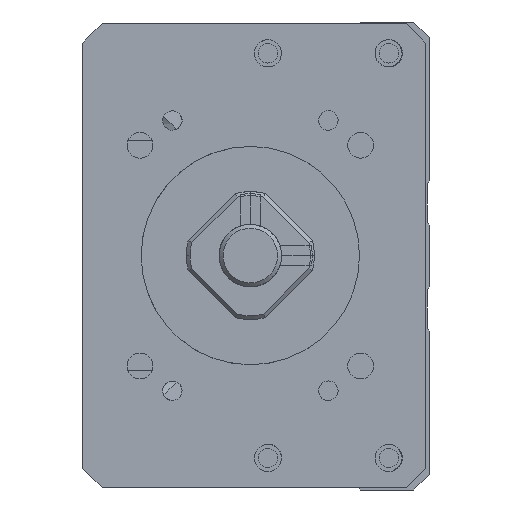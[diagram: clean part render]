
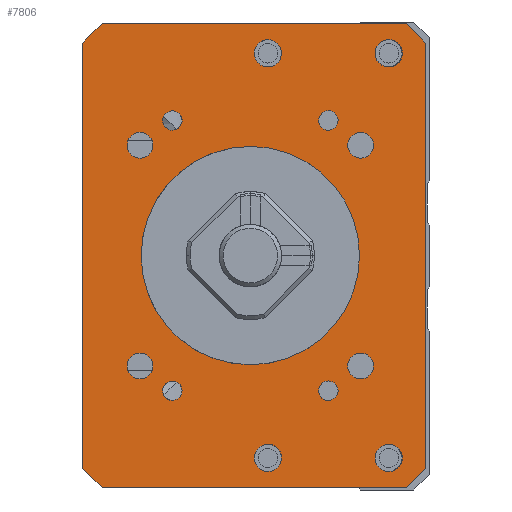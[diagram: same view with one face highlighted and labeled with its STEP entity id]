
A CAD part, left-side view. The second image highlights one B-rep face of the part: STEP entity #7806.
In plain terms, the highlighted planar face has unit normal (-1, 0, 0).
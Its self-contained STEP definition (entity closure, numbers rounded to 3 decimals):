
#4754=CIRCLE('',#15548,14.);
#4763=CIRCLE('',#15559,1.65);
#4764=CIRCLE('',#15560,1.65);
#4765=CIRCLE('',#15561,1.65);
#4766=CIRCLE('',#15562,1.65);
#4767=CIRCLE('',#15563,1.25);
#4768=CIRCLE('',#15564,1.75);
#4769=CIRCLE('',#15565,1.25);
#4770=CIRCLE('',#15566,1.75);
#4771=CIRCLE('',#15567,1.25);
#4772=CIRCLE('',#15568,1.75);
#4773=CIRCLE('',#15569,1.75);
#4774=CIRCLE('',#15570,1.25);
#5287=PLANE('',#15571);
#6151=LINE('',#19894,#6982);
#6153=LINE('',#19918,#6984);
#6154=LINE('',#19920,#6985);
#6155=LINE('',#19922,#6986);
#6156=LINE('',#19924,#6987);
#6157=LINE('',#19926,#6988);
#6158=LINE('',#19928,#6989);
#6159=LINE('',#19930,#6990);
#6982=VECTOR('',#16801,1.);
#6984=VECTOR('',#16825,1.);
#6985=VECTOR('',#16826,1.);
#6986=VECTOR('',#16827,1.);
#6987=VECTOR('',#16828,1.);
#6988=VECTOR('',#16829,1.);
#6989=VECTOR('',#16830,1.);
#6990=VECTOR('',#16831,1.);
#7806=ADVANCED_FACE('',(#8663,#8664,#8665,#8666,#8667,#8668,#8669,#8670,
#8671,#8672,#8673,#8674,#8675,#8676),#5287,.F.);
#8663=FACE_BOUND('',#9174,.T.);
#8664=FACE_BOUND('',#9175,.T.);
#8665=FACE_BOUND('',#9176,.T.);
#8666=FACE_BOUND('',#9177,.T.);
#8667=FACE_BOUND('',#9178,.T.);
#8668=FACE_BOUND('',#9179,.T.);
#8669=FACE_BOUND('',#9180,.T.);
#8670=FACE_BOUND('',#9181,.T.);
#8671=FACE_BOUND('',#9182,.T.);
#8672=FACE_BOUND('',#9183,.T.);
#8673=FACE_BOUND('',#9184,.T.);
#8674=FACE_BOUND('',#9185,.T.);
#8675=FACE_BOUND('',#9186,.T.);
#8676=FACE_BOUND('',#9187,.T.);
#9174=EDGE_LOOP('',(#10241));
#9175=EDGE_LOOP('',(#10242));
#9176=EDGE_LOOP('',(#10243));
#9177=EDGE_LOOP('',(#10244));
#9178=EDGE_LOOP('',(#10245));
#9179=EDGE_LOOP('',(#10246));
#9180=EDGE_LOOP('',(#10247));
#9181=EDGE_LOOP('',(#10248));
#9182=EDGE_LOOP('',(#10249));
#9183=EDGE_LOOP('',(#10250,#10251,#10252,#10253,#10254,#10255,#10256,#10257));
#9184=EDGE_LOOP('',(#10258));
#9185=EDGE_LOOP('',(#10259));
#9186=EDGE_LOOP('',(#10260));
#9187=EDGE_LOOP('',(#10261));
#10241=ORIENTED_EDGE('',*,*,#14058,.F.);
#10242=ORIENTED_EDGE('',*,*,#14059,.F.);
#10243=ORIENTED_EDGE('',*,*,#14060,.F.);
#10244=ORIENTED_EDGE('',*,*,#14061,.F.);
#10245=ORIENTED_EDGE('',*,*,#14062,.F.);
#10246=ORIENTED_EDGE('',*,*,#14063,.T.);
#10247=ORIENTED_EDGE('',*,*,#14064,.F.);
#10248=ORIENTED_EDGE('',*,*,#14065,.F.);
#10249=ORIENTED_EDGE('',*,*,#14066,.F.);
#10250=ORIENTED_EDGE('',*,*,#14055,.T.);
#10251=ORIENTED_EDGE('',*,*,#14067,.T.);
#10252=ORIENTED_EDGE('',*,*,#14068,.F.);
#10253=ORIENTED_EDGE('',*,*,#14069,.T.);
#10254=ORIENTED_EDGE('',*,*,#14070,.F.);
#10255=ORIENTED_EDGE('',*,*,#14071,.T.);
#10256=ORIENTED_EDGE('',*,*,#14072,.T.);
#10257=ORIENTED_EDGE('',*,*,#14073,.T.);
#10258=ORIENTED_EDGE('',*,*,#14074,.F.);
#10259=ORIENTED_EDGE('',*,*,#14075,.F.);
#10260=ORIENTED_EDGE('',*,*,#14076,.F.);
#10261=ORIENTED_EDGE('',*,*,#14035,.F.);
#12985=VERTEX_POINT('',#19817);
#13005=VERTEX_POINT('',#19893);
#13006=VERTEX_POINT('',#19895);
#13008=VERTEX_POINT('',#19901);
#13009=VERTEX_POINT('',#19903);
#13010=VERTEX_POINT('',#19905);
#13011=VERTEX_POINT('',#19907);
#13012=VERTEX_POINT('',#19909);
#13013=VERTEX_POINT('',#19911);
#13014=VERTEX_POINT('',#19913);
#13015=VERTEX_POINT('',#19915);
#13016=VERTEX_POINT('',#19917);
#13017=VERTEX_POINT('',#19919);
#13018=VERTEX_POINT('',#19921);
#13019=VERTEX_POINT('',#19923);
#13020=VERTEX_POINT('',#19925);
#13021=VERTEX_POINT('',#19927);
#13022=VERTEX_POINT('',#19929);
#13023=VERTEX_POINT('',#19932);
#13024=VERTEX_POINT('',#19934);
#13025=VERTEX_POINT('',#19936);
#14035=EDGE_CURVE('',#12985,#12985,#4754,.T.);
#14055=EDGE_CURVE('',#13006,#13005,#6151,.T.);
#14058=EDGE_CURVE('',#13008,#13008,#4763,.T.);
#14059=EDGE_CURVE('',#13009,#13009,#4764,.T.);
#14060=EDGE_CURVE('',#13010,#13010,#4765,.T.);
#14061=EDGE_CURVE('',#13011,#13011,#4766,.T.);
#14062=EDGE_CURVE('',#13012,#13012,#4767,.T.);
#14063=EDGE_CURVE('',#13013,#13013,#4768,.T.);
#14064=EDGE_CURVE('',#13014,#13014,#4769,.T.);
#14065=EDGE_CURVE('',#13015,#13015,#4770,.T.);
#14066=EDGE_CURVE('',#13016,#13016,#4771,.T.);
#14067=EDGE_CURVE('',#13005,#13017,#6153,.T.);
#14068=EDGE_CURVE('',#13018,#13017,#6154,.T.);
#14069=EDGE_CURVE('',#13018,#13019,#6155,.T.);
#14070=EDGE_CURVE('',#13020,#13019,#6156,.T.);
#14071=EDGE_CURVE('',#13020,#13021,#6157,.T.);
#14072=EDGE_CURVE('',#13021,#13022,#6158,.T.);
#14073=EDGE_CURVE('',#13022,#13006,#6159,.T.);
#14074=EDGE_CURVE('',#13023,#13023,#4772,.T.);
#14075=EDGE_CURVE('',#13024,#13024,#4773,.T.);
#14076=EDGE_CURVE('',#13025,#13025,#4774,.T.);
#15548=AXIS2_PLACEMENT_3D('',#19816,#16775,#16776);
#15559=AXIS2_PLACEMENT_3D('',#19900,#16807,#16808);
#15560=AXIS2_PLACEMENT_3D('',#19902,#16809,#16810);
#15561=AXIS2_PLACEMENT_3D('',#19904,#16811,#16812);
#15562=AXIS2_PLACEMENT_3D('',#19906,#16813,#16814);
#15563=AXIS2_PLACEMENT_3D('',#19908,#16815,#16816);
#15564=AXIS2_PLACEMENT_3D('',#19910,#16817,#16818);
#15565=AXIS2_PLACEMENT_3D('',#19912,#16819,#16820);
#15566=AXIS2_PLACEMENT_3D('',#19914,#16821,#16822);
#15567=AXIS2_PLACEMENT_3D('',#19916,#16823,#16824);
#15568=AXIS2_PLACEMENT_3D('',#19931,#16832,#16833);
#15569=AXIS2_PLACEMENT_3D('',#19933,#16834,#16835);
#15570=AXIS2_PLACEMENT_3D('',#19935,#16836,#16837);
#15571=AXIS2_PLACEMENT_3D('',#19937,#16838,#16839);
#16775=DIRECTION('',(-1.,0.,0.));
#16776=DIRECTION('',(0.,1.,0.));
#16801=DIRECTION('',(0.,0.,-1.));
#16807=DIRECTION('',(-1.,0.,0.));
#16808=DIRECTION('',(0.,0.,1.));
#16809=DIRECTION('',(-1.,0.,0.));
#16810=DIRECTION('',(0.,0.,1.));
#16811=DIRECTION('',(-1.,0.,0.));
#16812=DIRECTION('',(0.,0.,1.));
#16813=DIRECTION('',(-1.,0.,0.));
#16814=DIRECTION('',(0.,0.,1.));
#16815=DIRECTION('',(-1.,0.,0.));
#16816=DIRECTION('',(0.,1.,0.));
#16817=DIRECTION('',(1.,0.,0.));
#16818=DIRECTION('',(0.,0.,1.));
#16819=DIRECTION('',(-1.,0.,0.));
#16820=DIRECTION('',(0.,1.,0.));
#16821=DIRECTION('',(-1.,0.,0.));
#16822=DIRECTION('',(0.,0.,1.));
#16823=DIRECTION('',(-1.,0.,0.));
#16824=DIRECTION('',(0.,1.,0.));
#16825=DIRECTION('',(0.,-0.707,-0.707));
#16826=DIRECTION('',(0.,1.,0.));
#16827=DIRECTION('',(0.,-0.707,0.707));
#16828=DIRECTION('',(0.,0.,-1.));
#16829=DIRECTION('',(0.,0.707,0.707));
#16830=DIRECTION('',(0.,1.,0.));
#16831=DIRECTION('',(0.,0.707,-0.707));
#16832=DIRECTION('',(-1.,0.,0.));
#16833=DIRECTION('',(0.,0.,1.));
#16834=DIRECTION('',(-1.,0.,0.));
#16835=DIRECTION('',(0.,0.,1.));
#16836=DIRECTION('',(-1.,0.,0.));
#16837=DIRECTION('',(0.,1.,0.));
#16838=DIRECTION('',(1.,0.,0.));
#16839=DIRECTION('',(0.,-1.,0.));
#19816=CARTESIAN_POINT('',(-211.,0.,0.));
#19817=CARTESIAN_POINT('',(-211.,14.,0.));
#19893=CARTESIAN_POINT('',(-211.,21.499,-27.25));
#19894=CARTESIAN_POINT('',(-211.,21.499,29.75));
#19895=CARTESIAN_POINT('',(-211.,21.499,27.25));
#19900=CARTESIAN_POINT('',(-211.,14.142,14.142));
#19901=CARTESIAN_POINT('',(-211.,14.142,15.792));
#19902=CARTESIAN_POINT('',(-211.,-14.142,14.142));
#19903=CARTESIAN_POINT('',(-211.,-14.142,15.792));
#19904=CARTESIAN_POINT('',(-211.,14.142,-14.142));
#19905=CARTESIAN_POINT('',(-211.,14.142,-12.492));
#19906=CARTESIAN_POINT('',(-211.,-14.142,-14.142));
#19907=CARTESIAN_POINT('',(-211.,-14.142,-12.492));
#19908=CARTESIAN_POINT('',(-211.,-10.,-17.321));
#19909=CARTESIAN_POINT('',(-211.,-8.75,-17.321));
#19910=CARTESIAN_POINT('',(-211.,-2.25,-25.936));
#19911=CARTESIAN_POINT('',(-211.,-2.25,-24.186));
#19912=CARTESIAN_POINT('',(-211.,10.,17.321));
#19913=CARTESIAN_POINT('',(-211.,11.25,17.321));
#19914=CARTESIAN_POINT('',(-211.,-2.25,25.936));
#19915=CARTESIAN_POINT('',(-211.,-2.25,27.686));
#19916=CARTESIAN_POINT('',(-211.,10.,-17.321));
#19917=CARTESIAN_POINT('',(-211.,11.25,-17.321));
#19918=CARTESIAN_POINT('',(-211.,18.999,-29.75));
#19919=CARTESIAN_POINT('',(-211.,18.999,-29.75));
#19920=CARTESIAN_POINT('',(-211.,-22.501,-29.75));
#19921=CARTESIAN_POINT('',(-211.,-20.001,-29.75));
#19922=CARTESIAN_POINT('',(-211.,-22.501,-27.25));
#19923=CARTESIAN_POINT('',(-211.,-22.501,-27.25));
#19924=CARTESIAN_POINT('',(-211.,-22.501,29.75));
#19925=CARTESIAN_POINT('',(-211.,-22.501,27.25));
#19926=CARTESIAN_POINT('',(-211.,-22.501,27.25));
#19927=CARTESIAN_POINT('',(-211.,-20.001,29.75));
#19928=CARTESIAN_POINT('',(-211.,-22.501,29.75));
#19929=CARTESIAN_POINT('',(-211.,18.999,29.75));
#19930=CARTESIAN_POINT('',(-211.,18.999,29.75));
#19931=CARTESIAN_POINT('',(-211.,-17.75,25.936));
#19932=CARTESIAN_POINT('',(-211.,-17.75,27.686));
#19933=CARTESIAN_POINT('',(-211.,-17.75,-25.936));
#19934=CARTESIAN_POINT('',(-211.,-17.75,-24.186));
#19935=CARTESIAN_POINT('',(-211.,-10.,17.321));
#19936=CARTESIAN_POINT('',(-211.,-8.75,17.321));
#19937=CARTESIAN_POINT('',(-211.,-22.501,29.75));
